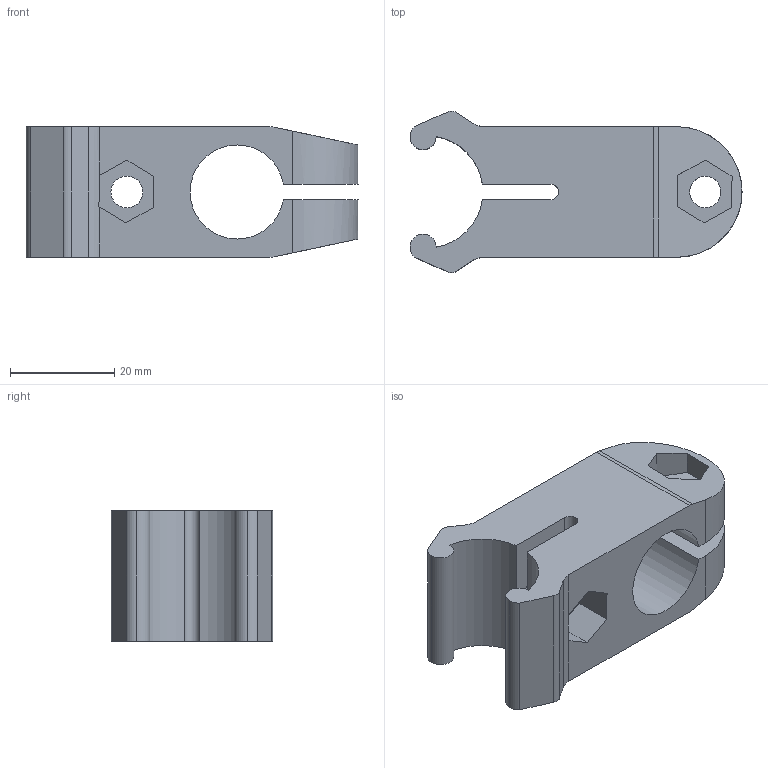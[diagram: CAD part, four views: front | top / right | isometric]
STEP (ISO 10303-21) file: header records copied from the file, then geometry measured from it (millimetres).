
FILE_DESCRIPTION (( 'STEP AP214' ), '1' );
FILE_NAME ('FGRS 18.step', '2017-04-05T07:43:40', ( '' ), ( '' ), 'SwSTEP 2.0', 'SolidWorks 2015', '' );
FILE_SCHEMA (( 'AUTOMOTIVE_DESIGN' ));
Length unit declared in the file: millimetre
Products named in the file (1): FGRS 18
Bounding box: 63.57 x 30.9 x 25 mm (x, y, z)
Volume: 21078.2 mm3; surface area: 10148.2 mm2
Topology: 1 solids, 1 shells, 68 faces, 192 edges, 128 vertices
Faces by surface type: plane 42, cylinder 26
Entity records: 2256 total; most frequent: CARTESIAN_POINT 413, ORIENTED_EDGE 384, DIRECTION 372, EDGE_CURVE 192, VECTOR 134, LINE 134, VERTEX_POINT 128, AXIS2_PLACEMENT_3D 119
